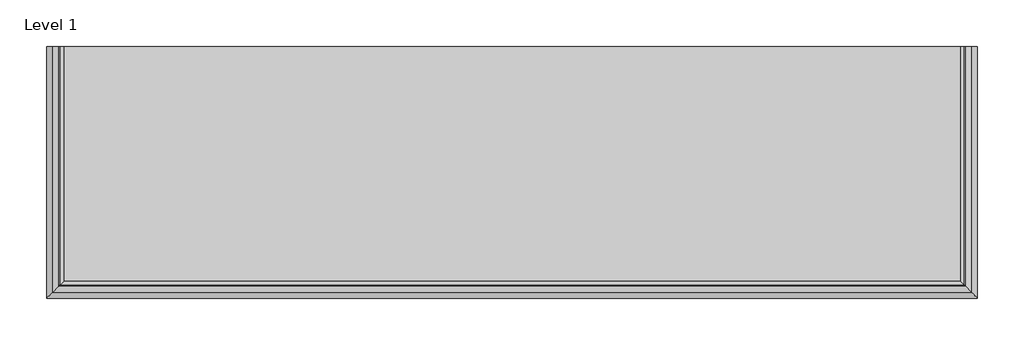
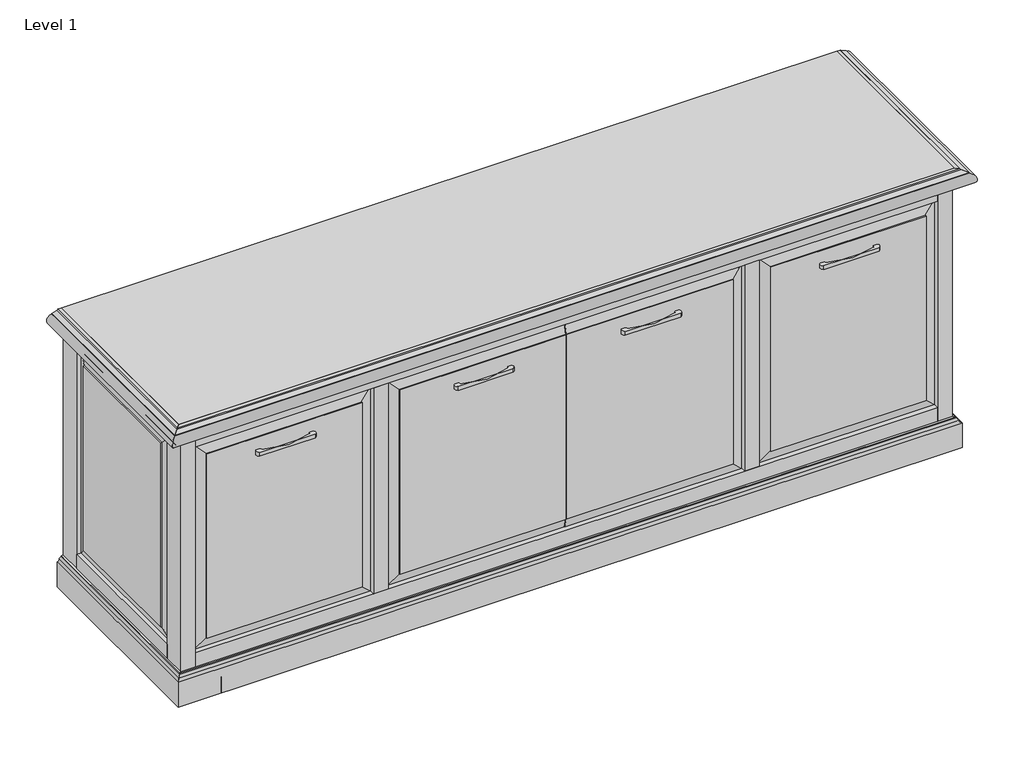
# One storey: 5 proxies.
"""IFC4 building model written with IfcOpenShell, lengths in millimetres."""

import ifcopenshell
import ifcopenshell.guid

model = None  # the IFC model being written
_history = None  # IfcOwnerHistory: only IFC2X3 demands one
_inside = {}  # id of a spatial element -> (the spatial element, [elements in it])
_under = {}  # id of a project, library or spatial element -> (it, [spatial elements below it])
_declared = {}  # id of a project -> (the project, [libraries it declares])
_typed = {}  # id of a type object -> (the type object, [elements of that type])
_made_of = {}  # id of a material, layer set ... -> (it, [elements and type objects made of it])


def new_model(schema):
    """Start an empty IFC model of exactly this schema.

    Asked for "IFC4X3", IfcOpenShell would pick the latest addendum, in which some entities
    have other attributes; the version numbers below select the first issue.
    IFC2X3 requires an IfcOwnerHistory on every rooted entity: one is made here for all.
    """
    global model, _history
    if schema == "IFC4X3":
        model = ifcopenshell.file(schema_version=(4, 3, 0, 0))
    else:
        model = ifcopenshell.file(schema=schema)
    _inside.clear()
    _under.clear()
    _declared.clear()
    _typed.clear()
    _made_of.clear()
    _history = None
    if model.schema == "IFC2X3":
        org = make("IfcOrganization", Name="unknown")
        user = make(
            "IfcPersonAndOrganization",
            ThePerson=make("IfcPerson", FamilyName="unknown"),
            TheOrganization=org,
        )
        app = make(
            "IfcApplication",
            ApplicationDeveloper=org,
            Version="unknown",
            ApplicationFullName="unknown",
            ApplicationIdentifier="unknown",
        )
        _history = make(
            "IfcOwnerHistory",
            OwningUser=user,
            OwningApplication=app,
            ChangeAction="ADDED",
            CreationDate=0,
        )
    return model


def make(cls, **values):
    """One entity of the class cls with the attributes given. An attribute that is None is left unset."""
    return model.create_entity(
        cls, **{name: value for name, value in values.items() if value is not None}
    )


def rooted(cls, **values):
    """An entity with a GlobalId (a new one), such as an element, a storey or a relation."""
    return make(cls, GlobalId=ifcopenshell.guid.new(), OwnerHistory=_history, **values)


def si_unit(unit_type, name, prefix=None):
    """IfcSIUnit, for example si_unit("LENGTHUNIT", "METRE", prefix="MILLI")."""
    return make("IfcSIUnit", UnitType=unit_type, Prefix=prefix, Name=name)


def assignment(units):
    """IfcUnitAssignment: the units of a project."""
    return None if units is None else make("IfcUnitAssignment", Units=units)


def point(xyz):
    """IfcCartesianPoint."""
    return None if xyz is None else make("IfcCartesianPoint", Coordinates=xyz)


def direction(xyz):
    """IfcDirection."""
    return None if xyz is None else make("IfcDirection", DirectionRatios=xyz)


def frame(location, z_axis=None, x_axis=None):
    """IfcAxis2Placement3D, a coordinate frame: its origin and axes. An axis left out is left unset."""
    return make(
        "IfcAxis2Placement3D",
        Location=point(location),
        Axis=direction(z_axis),
        RefDirection=direction(x_axis),
    )


def frame_2d(location, x_axis=None):
    """IfcAxis2Placement2D, a coordinate frame in the plane: its origin and x axis."""
    return make(
        "IfcAxis2Placement2D", Location=point(location), RefDirection=direction(x_axis)
    )


def origin():
    """The frame at (0, 0, 0) with its axes left unset."""
    return frame((0.0, 0.0, 0.0))


def place(relative_to, where):
    """IfcLocalPlacement: puts the frame where relative to a parent placement (None: the world)."""
    return make(
        "IfcLocalPlacement", PlacementRelTo=relative_to, RelativePlacement=where
    )


def context(
    kind, dimensions, precision=None, world=None, true_north=None, identifier=None
):
    """IfcGeometricRepresentationContext, for example the 3D "Model" context."""
    return make(
        "IfcGeometricRepresentationContext",
        ContextIdentifier=identifier,
        ContextType=kind,
        CoordinateSpaceDimension=dimensions,
        Precision=precision,
        WorldCoordinateSystem=world,
        TrueNorth=true_north,
    )


def project(units=None, contexts=None):
    """IfcProject with its units and contexts."""
    return rooted(
        "IfcProject",
        Name="project",
        RepresentationContexts=contexts,
        UnitsInContext=assignment(units),
    )


def spatial(cls, under=None, at=None, **own):
    """A site, building, storey or space (cls), placed at a placement, below another one or the project."""
    s = rooted(cls, ObjectPlacement=at, **own)
    if under is not None:
        _under.setdefault(under.id(), (under, []))[1].append(s)
    return s


def polyline(points):
    """IfcPolyline through the points."""
    return make("IfcPolyline", Points=[point(p) for p in points])


def circle_curve(where, radius):
    """IfcCircle in the frame where."""
    return make("IfcCircle", Position=where, Radius=radius)


def ellipse_curve(where, semi_axis1, semi_axis2):
    """IfcEllipse in the frame where."""
    return make(
        "IfcEllipse", Position=where, SemiAxis1=semi_axis1, SemiAxis2=semi_axis2
    )


def trimmed(basis, trim1, trim2, sense, master):
    """IfcTrimmedCurve: the piece of a basis curve between two trims."""
    return make(
        "IfcTrimmedCurve",
        BasisCurve=basis,
        Trim1=trim1,
        Trim2=trim2,
        SenseAgreement=sense,
        MasterRepresentation=master,
    )


def segment(curve, same_sense, transition):
    """IfcCompositeCurveSegment."""
    return make(
        "IfcCompositeCurveSegment",
        Transition=transition,
        SameSense=same_sense,
        ParentCurve=curve,
    )


def composite_curve(segments, self_intersect=None):
    """IfcCompositeCurve: segments joined end to end."""
    return make("IfcCompositeCurve", Segments=segments, SelfIntersect=self_intersect)


def outline(outer, holes=None, kind="AREA"):
    """IfcArbitraryClosedProfileDef: a profile drawn as a closed curve; with holes, ...WithVoids."""
    if holes is None:
        return make("IfcArbitraryClosedProfileDef", ProfileType=kind, OuterCurve=outer)
    return make(
        "IfcArbitraryProfileDefWithVoids",
        ProfileType=kind,
        OuterCurve=outer,
        InnerCurves=holes,
    )


def extrude(swept, where, along, depth):
    """IfcExtrudedAreaSolid: the profile swept, set in the frame where, extruded along a direction by depth."""
    return make(
        "IfcExtrudedAreaSolid",
        SweptArea=swept,
        Position=where,
        ExtrudedDirection=direction(along),
        Depth=depth,
    )


def faces_of(points, faces, orient=None, outer=None):
    """IfcFace entities. A face is a list of loops; a loop is a list of indices into points, from 0.

    orient and outer hold one flag for each loop. By default every Orientation is true, the
    first loop of a face is its IfcFaceOuterBound and the others are IfcFaceBound.
    """
    made = []
    for i, loops in enumerate(faces):
        bounds = []
        for j, loop in enumerate(loops):
            is_outer = j == 0 if outer is None else outer[i][j]
            bounds.append(
                make(
                    "IfcFaceOuterBound" if is_outer else "IfcFaceBound",
                    Bound=make("IfcPolyLoop", Polygon=[points[k] for k in loop]),
                    Orientation=True if orient is None else orient[i][j],
                )
            )
        made.append(make("IfcFace", Bounds=bounds))
    return made


def faceted_brep(points, faces, orient=None, outer=None, voids=None):
    """IfcFacetedBrep: a solid bounded by flat faces; with voids (closed shells), ...WithVoids."""
    shared = [point(p) for p in points]
    hull = make("IfcClosedShell", CfsFaces=faces_of(shared, faces, orient, outer))
    if voids is None:
        return make("IfcFacetedBrep", Outer=hull)
    return make(
        "IfcFacetedBrepWithVoids",
        Outer=hull,
        Voids=[
            make(cls, CfsFaces=faces_of(shared, fs, o, b)) for cls, fs, o, b in voids
        ],
    )


def shape(context_of_items, identifier, shape_type, items):
    """IfcShapeRepresentation: the items that make up one representation, for example the "Body"."""
    return make(
        "IfcShapeRepresentation",
        ContextOfItems=context_of_items,
        RepresentationIdentifier=identifier,
        RepresentationType=shape_type,
        Items=items,
    )


def source(mapping_origin, context_of_items, identifier, shape_type, items):
    """IfcRepresentationMap: a shape defined once, which mapped items show again and again."""
    return make(
        "IfcRepresentationMap",
        MappingOrigin=mapping_origin,
        MappedRepresentation=shape(context_of_items, identifier, shape_type, items),
    )


def transform(
    local_origin,
    x_axis=None,
    y_axis=None,
    z_axis=None,
    scale=None,
    scale2=None,
    scale3=None,
    uniform=True,
):
    """IfcCartesianTransformationOperator3D, or its non-uniform kind. x_axis, y_axis, z_axis: its Axis1, 2, 3."""
    if uniform:
        return make(
            "IfcCartesianTransformationOperator3D",
            Axis1=direction(x_axis),
            Axis2=direction(y_axis),
            LocalOrigin=point(local_origin),
            Scale=scale,
            Axis3=direction(z_axis),
        )
    return make(
        "IfcCartesianTransformationOperator3DnonUniform",
        Axis1=direction(x_axis),
        Axis2=direction(y_axis),
        LocalOrigin=point(local_origin),
        Scale=scale,
        Axis3=direction(z_axis),
        Scale2=scale2,
        Scale3=scale3,
    )


def mapped(mapping_source, mapping_target):
    """IfcMappedItem: shows the shape of a source again, moved by a transform."""
    return make(
        "IfcMappedItem", MappingSource=mapping_source, MappingTarget=mapping_target
    )


def made_of(thing, what):
    """Note that an element or type object is made of a material, layer set ...; save() writes the relation."""
    if what is not None:
        _made_of.setdefault(what.id(), (what, []))[1].append(thing)
    return thing


def element(
    cls,
    number,
    at=None,
    inside=None,
    cuts=None,
    type_object=None,
    material=None,
    context=None,
    identifier="Body",
    shape_type=None,
    held_by="IfcProductDefinitionShape",
    body=None,
    shapes=None,
    **own,
):
    """One element of the class cls, such as IfcWall. Its Tag is "e" and its number.

    at: its placement. inside: the storey or other place that contains it. cuts: it is an
    opening in that element (IfcRelVoidsElement). A single representation is given by context,
    identifier, shape_type and body (its items); several are given by shapes. held_by: the class
    of the entity that holds the representations. save() writes the other relations.
    """
    e = rooted(cls, Tag="e%d" % number, ObjectPlacement=at, **own)
    if body is not None:
        shapes = [shape(context, identifier, shape_type, body)]
    if shapes is not None:
        e.Representation = make(held_by, Representations=shapes)
    if inside is not None:
        _inside.setdefault(inside.id(), (inside, []))[1].append(e)
    if cuts is not None:
        rooted(
            "IfcRelVoidsElement", RelatingBuildingElement=cuts, RelatedOpeningElement=e
        )
    if type_object is not None:
        _typed.setdefault(type_object.id(), (type_object, []))[1].append(e)
    return made_of(e, material)


def aggregate(whole, parts):
    """IfcRelAggregates: a whole, such as a stair, and the parts it consists of."""
    return rooted("IfcRelAggregates", RelatingObject=whole, RelatedObjects=parts)


def save(model, path):
    """Write the relations noted so far, then the file.

    IfcRelAggregates (storeys below a building ...), IfcRelContainedInSpatialStructure (elements
    in a storey), IfcRelDefinesByType, IfcRelAssociatesMaterial and IfcRelDeclares: one each for
    every whole, place, type object, material and project.
    """
    for whole, parts in _under.values():
        aggregate(whole, parts)
    for where, things in _inside.values():
        rooted(
            "IfcRelContainedInSpatialStructure",
            RelatedElements=things,
            RelatingStructure=where,
        )
    for kind, things in _typed.values():
        rooted("IfcRelDefinesByType", RelatedObjects=things, RelatingType=kind)
    for what, things in _made_of.values():
        rooted("IfcRelAssociatesMaterial", RelatedObjects=things, RelatingMaterial=what)
    for by, libraries in _declared.values():
        rooted("IfcRelDeclares", RelatingContext=by, RelatedDefinitions=libraries)
    model.write(path)


def plane_surface(at):
    """IfcPlane: the flat surface through the origin of the frame at, square to its z axis."""
    return make("IfcPlane", Position=at)


def cylinder_surface(at, radius):
    """IfcCylindricalSurface: all points at the distance radius from the z axis of the frame at."""
    return make("IfcCylindricalSurface", Position=at, Radius=radius)


def revolved_surface(curve, axis_point, axis_direction):
    """IfcSurfaceOfRevolution: the curve turned about the line through axis_point along axis_direction."""
    return make(
        "IfcSurfaceOfRevolution",
        SweptCurve=make("IfcArbitraryOpenProfileDef", ProfileType="CURVE", Curve=curve),
        AxisPosition=make("IfcAxis1Placement", Location=point(axis_point), Axis=direction(axis_direction)),
    )


def advanced_brep(points, edges, surfaces, faces):
    """IfcAdvancedBrep: a solid bounded by faces that lie on surfaces and meet in shared edges.

    An edge is (start, end): straight between two places in points (the first is 0);
    or (start, end, curve); or (start, end, curve, False) where it runs against its curve.
    A face is (place in surfaces, loops), or (place, loops, False) where it looks against
    its surface's normal. A loop lists edges by number (the first is 1), with a minus sign
    where the edge is run from its end to its start. The first loop is the outer one.
    """
    corners = [point(p) for p in points]
    vertices = [make("IfcVertexPoint", VertexGeometry=c) for c in corners]
    made = []
    for start, end, *more in edges:
        made.append(
            make(
                "IfcEdgeCurve",
                EdgeStart=vertices[start],
                EdgeEnd=vertices[end],
                EdgeGeometry=more[0] if more else make("IfcPolyline", Points=[corners[start], corners[end]]),
                SameSense=more[1] if len(more) > 1 else True,
            )
        )
    hull = []
    for where, loops, *sense in faces:
        bounds = []
        for j, loop in enumerate(loops):
            ring = [make("IfcOrientedEdge", EdgeElement=made[abs(k) - 1], Orientation=k > 0) for k in loop]
            bounds.append(
                make(
                    "IfcFaceOuterBound" if j == 0 else "IfcFaceBound",
                    Bound=make("IfcEdgeLoop", EdgeList=ring),
                    Orientation=True,
                )
            )
        hull.append(make("IfcAdvancedFace", Bounds=bounds, FaceSurface=surfaces[where], SameSense=sense[0] if sense else True))
    return make("IfcAdvancedBrep", Outer=make("IfcClosedShell", CfsFaces=hull))


def generic_models_5fe2147b(model_context):
    return source(origin(), model_context, "Body", "SweptSolid", [
        extrude(outline(composite_curve([segment(polyline([(0.0, 176.6568542), (0.0, 165.3431458)]), True, "CONTINUOUS"), segment(trimmed(circle_curve(frame_2d((-7.0, 171.0)), 9.0), [point((0.0, 165.3431458))], [point((-7.0, 162.0))], False, "CARTESIAN"), True, "CONTINUOUS"), segment(trimmed(circle_curve(frame_2d((155.5694928, 90.0)), 177.8), [point((-7.0, 162.0))], [point((-7.0, 18.0))], True, "CARTESIAN"), True, "CONTINUOUS"), segment(trimmed(circle_curve(frame_2d((-7.0, 9.0)), 9.0), [point((-7.0, 18.0))], [point((0.0, 14.6568542))], False, "CARTESIAN"), True, "CONTINUOUS"), segment(polyline([(0.0, 14.6568542), (0.0, 3.3431458)]), True, "CONTINUOUS"), segment(trimmed(circle_curve(frame_2d((-7.0, 9.0)), 9.0), [point((0.0, 3.3431458))], [point((-15.6134228, 6.390604))], False, "CARTESIAN"), True, "CONTINUOUS"), segment(trimmed(circle_curve(frame_2d((260.375, 90.0)), 288.375), [point((-15.6134228, 6.390604))], [point((-15.6134228, 173.609396))], False, "CARTESIAN"), True, "CONTINUOUS"), segment(trimmed(circle_curve(frame_2d((-7.0, 171.0)), 9.0), [point((-15.6134228, 173.609396))], [point((0.0, 176.6568542))], False, "CARTESIAN"), True, "CONTINUOUS")], self_intersect=False)), frame((0.0, 0.0, 0.0), z_axis=(0.0, 1.0, 0.0), x_axis=(0.0, 0.0, 1.0)), (0.0, 0.0, 1.0), 12.0),
    ])


def generic_models_f6060e17(model_context):
    return source(origin(), model_context, "Body", "SolidModel", [
        extrude(outline(polyline([(31.75, -857.25), (6.35, -857.25), (6.35, -717.55), (31.75, -717.55), (31.75, -857.25)])), frame((0.0, 0.0, -546.1), z_axis=(0.0, 0.0, 1.0), x_axis=(1.0, 0.0, 0.0)), (0.0, 0.0, 1.0), 476.25),
        extrude(outline(polyline([(0.0, 2298.7), (-25.4, 2298.7), (-25.4, 2317.75), (0.0, 2343.15), (0.0, 2298.7)])), frame((0.0, -857.25, 0.0), z_axis=(0.0, 1.0, 0.0), x_axis=(0.0, 0.0, 1.0)), (0.0, 0.0, 1.0), 857.25),
        extrude(outline(polyline([(-25.4, 31.75), (-25.4, 50.8), (0.0, 50.8), (0.0, 6.35), (-25.4, 31.75)])), frame((0.0, -857.25, 0.0), z_axis=(0.0, 1.0, 0.0), x_axis=(0.0, 0.0, 1.0)), (0.0, 0.0, 1.0), 857.25),
        faceted_brep([(1679.575, -92.075, -3.175), (1711.325, -60.325, -11.6823869), (1176.3375, -60.325, -11.6823869), (1176.3375, -92.075, -3.175), (1679.575, -92.075, 0.0), (1176.3375, -92.075, 0.0), (1679.575, -682.625, -3.175), (1711.325, -714.375, -11.6823869), (1679.575, -682.625, 0.0), (1176.3375, -682.625, -3.175), (1176.3375, -714.375, -11.6823869), (1176.3375, -682.625, 0.0), (1711.325, -60.325, -19.05), (1176.3375, -60.325, -19.05), (1711.325, -714.375, -19.05), (1176.3375, -714.375, -19.05)], [[[0, 1, 2, 3]], [[4, 0, 3, 5]], [[6, 7, 1, 0]], [[8, 6, 0, 4]], [[9, 10, 7, 6]], [[11, 9, 6, 8]], [[2, 1, 12, 13]], [[1, 7, 14, 12]], [[5, 3, 2, 13, 15, 10, 9, 11]], [[7, 10, 15, 14]], [[4, 5, 11, 8]], [[12, 14, 15, 13]]]),
        extrude(outline(polyline([(2343.15, -857.25), (2317.75, -857.25), (2317.75, -717.55), (2343.15, -717.55), (2343.15, -857.25)])), frame((0.0, 0.0, -546.1), z_axis=(0.0, 0.0, 1.0), x_axis=(1.0, 0.0, 0.0)), (0.0, 0.0, 1.0), 476.25),
        extrude(outline(polyline([(0.0, 6.35), (-69.85, 6.35), (-69.85, 31.75), (-25.4, 31.75), (0.0, 6.35)])), frame((0.0, -857.25, 0.0), z_axis=(0.0, 1.0, 0.0), x_axis=(0.0, 0.0, 1.0)), (0.0, 0.0, 1.0), 857.25),
        faceted_brep([(2263.775, -682.625, -3.175), (2295.525, -714.375, -11.6823869), (2295.525, -60.325, -11.6823869), (2263.775, -92.075, -3.175), (2263.775, -682.625, 0.0), (2263.775, -92.075, 0.0), (1793.875, -682.625, -3.175), (1762.125, -714.375, -11.6823869), (1793.875, -682.625, 0.0), (1793.875, -92.075, -3.175), (1762.125, -60.325, -11.6823869), (1793.875, -92.075, 0.0), (2295.525, -60.325, -19.05), (1762.125, -60.325, -19.05), (2295.525, -714.375, -19.05), (1762.125, -714.375, -19.05)], [[[0, 1, 2, 3]], [[4, 0, 3, 5]], [[6, 7, 1, 0]], [[8, 6, 0, 4]], [[9, 10, 7, 6]], [[11, 9, 6, 8]], [[3, 2, 10, 9]], [[5, 3, 9, 11]], [[10, 2, 12, 13]], [[2, 1, 14, 12]], [[7, 10, 13, 15]], [[1, 7, 15, 14]], [[4, 5, 11, 8]], [[14, 15, 13, 12]]]),
        extrude(outline(polyline([(2343.15, -857.25), (2317.75, -857.25), (2317.75, 0.0), (2343.15, 0.0), (2343.15, -857.25)])), frame((0.0, 0.0, -615.95), z_axis=(0.0, 0.0, 1.0), x_axis=(1.0, 0.0, 0.0)), (0.0, 0.0, 1.0), 69.85),
        faceted_brep([(555.625, -682.625, 0.0), (555.625, -682.625, -3.175), (555.625, -92.075, -3.175), (555.625, -92.075, 0.0), (587.375, -714.375, -11.6823869), (587.375, -60.325, -11.6823869), (85.725, -682.625, 0.0), (85.725, -682.625, -3.175), (53.975, -714.375, -11.6823869), (85.725, -92.075, 0.0), (85.725, -92.075, -3.175), (53.975, -60.325, -11.6823869), (587.375, -60.325, -19.05), (53.975, -60.325, -19.05), (587.375, -714.375, -19.05), (53.975, -714.375, -19.05)], [[[0, 1, 2, 3]], [[1, 4, 5, 2]], [[6, 7, 1, 0]], [[7, 8, 4, 1]], [[9, 10, 7, 6]], [[10, 11, 8, 7]], [[2, 5, 11, 10]], [[3, 2, 10, 9]], [[11, 5, 12, 13]], [[5, 4, 14, 12]], [[8, 11, 13, 15]], [[4, 8, 15, 14]], [[0, 3, 9, 6]], [[14, 15, 13, 12]]]),
        extrude(outline(polyline([(0.0, 2343.15), (-25.4, 2317.75), (-69.85, 2317.75), (-69.85, 2343.15), (0.0, 2343.15)])), frame((0.0, -857.25, 0.0), z_axis=(0.0, 1.0, 0.0), x_axis=(0.0, 0.0, 1.0)), (0.0, 0.0, 1.0), 857.25),
        extrude(outline(polyline([(2298.7, -857.25), (50.8, -857.25), (50.8, -717.55), (2298.7, -717.55), (2298.7, -857.25)])), frame((0.0, 0.0, -25.4), z_axis=(0.0, 0.0, 1.0), x_axis=(1.0, 0.0, 0.0)), (0.0, 0.0, 1.0), 25.4),
        extrude(outline(polyline([(1714.5, -57.15), (1758.95, -57.15), (1758.95, -717.55), (1714.5, -717.55), (1714.5, -57.15)])), frame((0.0, 0.0, -25.4), z_axis=(0.0, 0.0, 1.0), x_axis=(1.0, 0.0, 0.0)), (0.0, 0.0, 1.0), 25.4),
        extrude(outline(polyline([(31.75, 0.0), (50.8, 0.0), (50.8, -857.25), (31.75, -857.25), (31.75, 0.0)])), frame((0.0, 0.0, -596.9), z_axis=(0.0, 0.0, 1.0), x_axis=(1.0, 0.0, 0.0)), (0.0, 0.0, 1.0), 571.5),
        advanced_brep(
        [(2362.2, -857.25, 19.05), (-12.7, -857.25, 19.05), (6.35, -857.25, 0.0), (2343.15, -857.25, 0.0), (2362.2, -777.875, 19.05), (-12.7, -777.875, 19.05), (6.35, -762.0, 0.0), (2343.15, -762.0, 0.0), (2355.85, -771.525, 12.7), (-6.35, -771.525, 12.7), (2349.5, -765.175, 6.35), (0.0, -765.175, 6.35), (2349.5, -762.0, 6.35), (0.0, -762.0, 6.35)],
        [
            (0, 1),
            (1, 2),
            (2, 3),
            (3, 0),
            (0, 4),
            (4, 5),
            (5, 1),
            (2, 6),
            (6, 7),
            (7, 3),
            (4, 8, ellipse_curve(frame((2362.2, -771.525, 19.05), z_axis=(0.7071067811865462, 0.0, -0.7071067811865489), x_axis=(-0.7071067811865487, 0.0, -0.7071067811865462)), 8.9802561, 6.35)),
            (8, 9),
            (9, 5, ellipse_curve(frame((-12.7, -771.525, 19.05), z_axis=(-0.7071067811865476, 0.0, -0.7071067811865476), x_axis=(-0.7071067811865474, 0.0, 0.7071067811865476)), 8.9802561, 6.35)),
            (8, 10, ellipse_curve(frame((2349.5, -771.525, 6.35), z_axis=(-0.7071067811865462, 0.0, 0.7071067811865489), x_axis=(-0.7071067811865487, 0.0, -0.7071067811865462)), 8.9802561, 6.35)),
            (10, 11),
            (11, 9, ellipse_curve(frame((0.0, -771.525, 6.35), z_axis=(0.7071067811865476, 0.0, 0.7071067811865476), x_axis=(-0.7071067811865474, 0.0, 0.7071067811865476)), 8.9802561, 6.35)),
            (10, 12),
            (12, 13),
            (13, 11),
            (12, 7),
            (6, 13),
        ],
        [
            plane_surface(frame((1174.75, -857.25, 9.525), z_axis=(0.0, -1.0, 0.0), x_axis=(0.0, 0.0, -1.0))),
            plane_surface(frame((-12.7, -857.25, 19.05), z_axis=(0.0, 0.0, 1.0), x_axis=(1.0, 0.0, 0.0))),
            plane_surface(frame((2343.15, -857.25, 0.0), z_axis=(0.0, 0.0, -1.0), x_axis=(-1.0, 0.0, 0.0))),
            revolved_surface(polyline([(-19.04999998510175, -771.525, 25.4), (2368.5499999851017, -771.525, 25.4)]), (2362.2, -771.525, 19.05), (-1.0, 0.0, 0.0)),
            cylinder_surface(frame((2349.5, -771.525, 6.35), z_axis=(-1.0, 0.0, 0.0), x_axis=(0.0, 0.0, 1.0)), 6.35),
            plane_surface(frame((2349.5, -762.0, 6.35), z_axis=(0.0, 0.0, 1.0), x_axis=(0.0, -1.0, 0.0))),
            plane_surface(frame((1174.75, -762.0, 9.525), z_axis=(0.0, 1.0, 0.0), x_axis=(0.0, 0.0, 1.0))),
            plane_surface(frame((2362.2, -857.25, 19.05), z_axis=(0.7071067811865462, 0.0, -0.7071067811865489), x_axis=(-0.7071067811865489, 0.0, -0.7071067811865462))),
            plane_surface(frame((6.35, -857.25, 0.0), z_axis=(-0.7071067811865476, 0.0, -0.7071067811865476), x_axis=(-0.7071067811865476, 0.0, 0.7071067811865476))),
        ],
        [
            (0, [[1, 2, 3, 4]]),
            (1, [[-1, 5, 6, 7]]),
            (2, [[-3, 8, 9, 10]]),
            (3, [[11, 12, 13, -6]]),
            (4, [[14, 15, 16, -12]]),
            (5, [[17, 18, 19, -15]]),
            (6, [[-18, 20, -9, 21]]),
            (7, [[-17, -14, -11, -5, -4, -10, -20]]),
            (8, [[-19, -21, -8, -2, -7, -13, -16]]),
        ],
    ),
        advanced_brep(
        [(2362.2, -777.875, -615.95), (2355.85, -771.525, -615.95), (2355.85, -771.525, 12.7), (2362.2, -777.875, 19.05), (2349.5, -765.175, -615.95), (2349.5, -765.175, 6.35), (2349.5, -762.0, -615.95), (2349.5, -762.0, 6.35), (2343.15, -762.0, 0.0), (2343.15, -857.25, 0.0), (2362.2, -857.25, 19.05), (2343.15, -762.0, -615.95), (2343.15, -857.25, -615.95), (2362.2, -857.25, -615.95)],
        [
            (0, 1, circle_curve(frame((2362.2, -771.525, -615.95), z_axis=(0.0, 0.0, -1.0), x_axis=(0.0, -1.0, 0.0)), 6.35)),
            (1, 2),
            (2, 3, ellipse_curve(frame((2362.2, -771.525, 19.05), z_axis=(-0.7071067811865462, 0.0, 0.7071067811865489), x_axis=(0.707106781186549, 0.0, 0.707106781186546)), 8.9802561, 6.35)),
            (3, 0),
            (1, 4, circle_curve(frame((2349.5, -771.525, -615.95), z_axis=(0.0, 0.0, 1.0), x_axis=(0.0, -1.0, 0.0)), 6.35)),
            (4, 5),
            (5, 2, ellipse_curve(frame((2349.5, -771.525, 6.35), z_axis=(0.7071067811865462, 0.0, -0.7071067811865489), x_axis=(0.707106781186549, 0.0, 0.707106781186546)), 8.9802561, 6.35)),
            (4, 6),
            (6, 7),
            (7, 5),
            (7, 8),
            (8, 9),
            (9, 10),
            (10, 3),
            (6, 11),
            (11, 8),
            (12, 9),
            (11, 12),
            (0, 13),
            (13, 12),
            (10, 13),
        ],
        [
            revolved_surface(polyline([(2362.2, -777.875, 25.399999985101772), (2362.2, -777.875, -615.95)]), (2362.2, -771.525, -615.95), (0.0, 0.0, 1.0)),
            cylinder_surface(frame((2349.5, -771.525, -615.95), z_axis=(0.0, 0.0, 1.0), x_axis=(0.0, -1.0, 0.0)), 6.35),
            plane_surface(frame((2349.5, -762.0, -615.95), z_axis=(1.0, 0.0, 0.0), x_axis=(0.0, -1.0, 0.0))),
            plane_surface(frame((2343.15, -857.25, 0.0), z_axis=(-0.7071067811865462, 0.0, 0.7071067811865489), x_axis=(0.7071067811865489, 0.0, 0.7071067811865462))),
            plane_surface(frame((2352.675, -762.0, -298.45), z_axis=(0.0, 1.0, 0.0), x_axis=(0.0, 0.0, 1.0))),
            plane_surface(frame((2343.15, -857.25, -615.95), z_axis=(-1.0, 0.0, 0.0), x_axis=(0.0, 0.0, 1.0))),
            plane_surface(frame((2362.2, -857.25, -615.95), z_axis=(0.0, 0.0, -1.0), x_axis=(-1.0, 0.0, 0.0))),
            plane_surface(frame((2362.2, -857.25, 19.05), z_axis=(1.0, 0.0, 0.0), x_axis=(0.0, 0.0, -1.0))),
            plane_surface(frame((2352.675, -857.25, -298.45), z_axis=(0.0, -1.0, 0.0), x_axis=(0.0, 0.0, -1.0))),
        ],
        [
            (0, [[1, 2, 3, 4]]),
            (1, [[5, 6, 7, -2]]),
            (2, [[8, 9, 10, -6]]),
            (3, [[-3, -7, -10, 11, 12, 13, 14]]),
            (4, [[-9, 15, 16, -11]]),
            (5, [[17, -12, -16, 18]]),
            (6, [[-1, 19, 20, -18, -15, -8, -5]]),
            (7, [[-4, -14, 21, -19]]),
            (8, [[-21, -13, -17, -20]]),
        ],
    ),
        extrude(outline(polyline([(6.35, 0.0), (31.75, 0.0), (31.75, -57.15), (6.35, -57.15), (6.35, 0.0)])), frame((0.0, 0.0, -546.1), z_axis=(0.0, 0.0, 1.0), x_axis=(1.0, 0.0, 0.0)), (0.0, 0.0, 1.0), 476.25),
        extrude(outline(polyline([(50.8, -717.55), (2298.7, -717.55), (2298.7, -755.65), (50.8, -755.65), (50.8, -717.55)])), frame((0.0, 0.0, -596.9), z_axis=(0.0, 0.0, 1.0), x_axis=(1.0, 0.0, 0.0)), (0.0, 0.0, 1.0), 571.5),
        faceted_brep([(2343.15, -682.625, -511.175), (2339.975, -682.625, -511.175), (2339.975, -92.075, -511.175), (2343.15, -92.075, -511.175), (2331.4676131, -714.375, -542.925), (2331.4676131, -60.325, -542.925), (2324.1, -714.375, -542.925), (2324.1, -60.325, -542.925), (2343.15, -682.625, -104.775), (2339.975, -682.625, -104.775), (2331.4676131, -714.375, -73.025), (2324.1, -714.375, -73.025), (2324.1, -57.15, -546.1), (2324.1, -57.15, -69.85), (2324.1, -717.55, -69.85), (2324.1, -717.55, -546.1), (2324.1, -60.325, -73.025), (2343.15, -92.075, -104.775), (2339.975, -92.075, -104.775), (2331.4676131, -60.325, -73.025), (2317.75, -717.55, -546.1), (2317.75, -57.15, -546.1), (2317.75, -717.55, -69.85), (2317.75, -57.15, -69.85)], [[[0, 1, 2, 3]], [[1, 4, 5, 2]], [[4, 6, 7, 5]], [[8, 9, 1, 0]], [[9, 10, 4, 1]], [[10, 11, 6, 4]], [[12, 13, 14, 15], [11, 16, 7, 6]], [[17, 18, 9, 8]], [[18, 19, 10, 9]], [[19, 16, 11, 10]], [[3, 2, 18, 17]], [[2, 5, 19, 18]], [[5, 7, 16, 19]], [[12, 15, 20, 21]], [[15, 14, 22, 20]], [[14, 13, 23, 22]], [[13, 12, 21, 23]], [[0, 3, 17, 8]], [[20, 22, 23, 21]]]),
        faceted_brep([(6.35, -682.625, -104.775), (9.525, -682.625, -104.775), (9.525, -92.075, -104.775), (6.35, -92.075, -104.775), (18.0323869, -714.375, -73.025), (18.0323869, -60.325, -73.025), (25.4, -714.375, -73.025), (25.4, -60.325, -73.025), (6.35, -682.625, -511.175), (9.525, -682.625, -511.175), (18.0323869, -714.375, -542.925), (25.4, -714.375, -542.925), (25.4, -57.15, -69.85), (25.4, -57.15, -546.1), (25.4, -717.55, -546.1), (25.4, -717.55, -69.85), (25.4, -60.325, -542.925), (6.35, -92.075, -511.175), (9.525, -92.075, -511.175), (18.0323869, -60.325, -542.925), (31.75, -717.55, -69.85), (31.75, -57.15, -69.85), (31.75, -717.55, -546.1), (31.75, -57.15, -546.1)], [[[0, 1, 2, 3]], [[1, 4, 5, 2]], [[4, 6, 7, 5]], [[8, 9, 1, 0]], [[9, 10, 4, 1]], [[10, 11, 6, 4]], [[12, 13, 14, 15], [11, 16, 7, 6]], [[17, 18, 9, 8]], [[18, 19, 10, 9]], [[19, 16, 11, 10]], [[3, 2, 18, 17]], [[2, 5, 19, 18]], [[5, 7, 16, 19]], [[12, 15, 20, 21]], [[15, 14, 22, 20]], [[14, 13, 23, 22]], [[13, 12, 21, 23]], [[0, 3, 17, 8]], [[20, 22, 23, 21]]]),
        advanced_brep(
        [(-27.4410714, -9.5412197, 27.4410714), (-28.575, 22.1682311, 28.575), (-28.575, 22.1682311, -615.95), (-27.4410714, -9.5412197, -615.95), (-28.575, 23.7557311, 28.575), (-28.575, 23.7557311, -615.95), (-13.7031721, 29.1686338, 13.7031721), (-13.7031721, 29.1686338, -615.95), (-10.5028814, 31.75, 10.5028814), (-10.5028814, 31.75, -615.95), (-21.4882387, -12.7, 21.4882387), (-21.4882387, -12.7, -615.95), (0.0, -12.7, -615.95), (0.0, -12.7, 0.0), (0.0, 31.75, -615.95), (0.0, 31.75, 0.0)],
        [
            (0, 1, ellipse_curve(frame((-28.575, 6.2932311, 28.575), z_axis=(-0.7071067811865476, 0.0, -0.7071067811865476), x_axis=(0.7071067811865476, 0.0, -0.7071067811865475)), 22.4506403, 15.875)),
            (1, 2),
            (2, 3, circle_curve(frame((-28.575, 6.2932311, -615.95), z_axis=(0.0, 0.0, 1.0), x_axis=(-1.0, 0.0, 0.0)), 15.875)),
            (3, 0),
            (1, 4),
            (4, 5),
            (5, 2),
            (4, 6),
            (6, 7),
            (7, 5),
            (6, 8, ellipse_curve(frame((-15.875, 35.1356819, 15.875), z_axis=(0.7071067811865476, 0.0, 0.7071067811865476), x_axis=(0.7071067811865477, 0.0, -0.7071067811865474)), 8.9802561, 6.35)),
            (8, 9),
            (9, 7, circle_curve(frame((-15.875, 35.1356819, -615.95), z_axis=(0.0, 0.0, -1.0), x_axis=(1.0, 0.0, 0.0)), 6.35)),
            (10, 0, ellipse_curve(frame((-26.9875, -15.875, 26.9875), z_axis=(0.7071067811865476, 0.0, 0.7071067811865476), x_axis=(0.7071067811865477, 0.0, -0.7071067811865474)), 8.9802561, 6.35)),
            (3, 11, circle_curve(frame((-26.9875, -15.875, -615.95), z_axis=(0.0, 0.0, -1.0), x_axis=(1.0, 0.0, 0.0)), 6.35)),
            (11, 10),
            (11, 12),
            (12, 13),
            (13, 10),
            (9, 14),
            (14, 12),
            (13, 15),
            (15, 8),
            (14, 15),
        ],
        [
            cylinder_surface(frame((-28.575, 6.2932311, 28.575), z_axis=(0.0, 0.0, -1.0), x_axis=(-1.0, 0.0, 0.0)), 15.875),
            plane_surface(frame((-28.575, 23.7557311, 28.575), z_axis=(-1.0, 0.0, 0.0), x_axis=(0.0, -1.0, 0.0))),
            plane_surface(frame((-13.7031721, 29.1686338, 13.7031721), z_axis=(-0.3420201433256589, 0.939692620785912, 0.0), x_axis=(-0.6847910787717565, -0.24924356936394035, 0.6847910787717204))),
            revolved_surface(polyline([(-9.525, 35.1356819, -615.95), (-9.525, 35.1356819, 22.224999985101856)]), (-15.875, 35.1356819, 15.875), (0.0, 0.0, -1.0)),
            revolved_surface(polyline([(-20.637500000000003, -15.875, -615.95), (-20.637500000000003, -15.875, 33.33749998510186)]), (-26.9875, -15.875, 26.9875), (0.0, 0.0, -1.0)),
            plane_surface(frame((-22.225, -12.7, -285.75), z_axis=(0.0, -1.0, 0.0), x_axis=(0.0, 0.0, -1.0))),
            plane_surface(frame((-44.45, 31.75, -615.95), z_axis=(0.0, 0.0, -1.0), x_axis=(1.0, 0.0, 0.0))),
            plane_surface(frame((0.0, 31.75, 0.0), z_axis=(0.7071067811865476, 0.0, 0.7071067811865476), x_axis=(-0.7071067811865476, 0.0, 0.7071067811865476))),
            plane_surface(frame((0.0, 31.75, -615.95), z_axis=(1.0, 0.0, 0.0), x_axis=(0.0, 0.0, 1.0))),
            plane_surface(frame((-22.225, 31.75, -285.75), z_axis=(0.0, 1.0, 0.0), x_axis=(0.0, 0.0, 1.0))),
        ],
        [
            (0, [[1, 2, 3, 4]]),
            (1, [[5, 6, 7, -2]]),
            (2, [[8, 9, 10, -6]]),
            (3, [[11, 12, 13, -9]]),
            (4, [[14, -4, 15, 16]]),
            (5, [[-16, 17, 18, 19]]),
            (6, [[-15, -3, -7, -10, -13, 20, 21, -17]]),
            (7, [[-14, -19, 22, 23, -11, -8, -5, -1]]),
            (8, [[24, -22, -18, -21]]),
            (9, [[-12, -23, -24, -20]]),
        ],
    ),
        extrude(outline(polyline([(2317.75, 0.0), (2343.15, 0.0), (2343.15, -57.15), (2317.75, -57.15), (2317.75, 0.0)])), frame((0.0, 0.0, -546.1), z_axis=(0.0, 0.0, 1.0), x_axis=(1.0, 0.0, 0.0)), (0.0, 0.0, 1.0), 476.25),
        extrude(outline(polyline([(523.875, -857.25), (117.475, -857.25), (117.475, -806.45), (523.875, -806.45), (523.875, -857.25)])), frame((0.0, 0.0, 15.875), z_axis=(0.0, 0.0, 1.0), x_axis=(1.0, 0.0, 0.0)), (0.0, 0.0, 1.0), 3.175),
        extrude(outline(polyline([(50.8, 0.0), (2298.7, 0.0), (2298.7, -57.15), (50.8, -57.15), (50.8, 0.0)])), frame((0.0, 0.0, -25.4), z_axis=(0.0, 0.0, 1.0), x_axis=(1.0, 0.0, 0.0)), (0.0, 0.0, 1.0), 25.4),
        extrude(outline(polyline([(590.55, -57.15), (635.0, -57.15), (635.0, -717.55), (590.55, -717.55), (590.55, -57.15)])), frame((0.0, 0.0, -25.4), z_axis=(0.0, 0.0, 1.0), x_axis=(1.0, 0.0, 0.0)), (0.0, 0.0, 1.0), 25.4),
        advanced_brep(
        [(2376.9410714, -9.5412197, 27.4410714), (2378.075, 22.1682311, 28.575), (-28.575, 22.1682311, 28.575), (-27.4410714, -9.5412197, 27.4410714), (2378.075, 23.7557311, 28.575), (-28.575, 23.7557311, 28.575), (2363.2031721, 29.1686338, 13.7031721), (-13.7031721, 29.1686338, 13.7031721), (2360.0028814, 31.75, 10.5028814), (-10.5028814, 31.75, 10.5028814), (2370.9882387, -12.7, 21.4882387), (-21.4882387, -12.7, 21.4882387), (2349.5, -12.7, 0.0), (2349.5, 31.75, 0.0), (0.0, -12.7, 0.0), (0.0, 31.75, 0.0)],
        [
            (0, 1, ellipse_curve(frame((2378.075, 6.2932311, 28.575), z_axis=(-0.7071067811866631, 0.0, 0.707106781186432), x_axis=(-0.7071067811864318, 0.0, -0.7071067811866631)), 22.4506403, 15.875)),
            (1, 2),
            (2, 3, ellipse_curve(frame((-28.575, 6.2932311, 28.575), z_axis=(0.7071067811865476, 0.0, 0.7071067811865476), x_axis=(-0.7071067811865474, 0.0, 0.7071067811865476)), 22.4506403, 15.875)),
            (3, 0),
            (1, 4),
            (4, 5),
            (5, 2),
            (4, 6),
            (6, 7),
            (7, 5),
            (6, 8, ellipse_curve(frame((2365.375, 35.1356819, 15.875), z_axis=(0.7071067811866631, 0.0, -0.707106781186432), x_axis=(-0.7071067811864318, 0.0, -0.7071067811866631)), 8.9802561, 6.35)),
            (8, 9),
            (9, 7, ellipse_curve(frame((-15.875, 35.1356819, 15.875), z_axis=(-0.7071067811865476, 0.0, -0.7071067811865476), x_axis=(-0.7071067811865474, 0.0, 0.7071067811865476)), 8.9802561, 6.35)),
            (10, 0, ellipse_curve(frame((2376.4875, -15.875, 26.9875), z_axis=(0.7071067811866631, 0.0, -0.707106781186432), x_axis=(-0.7071067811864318, 0.0, -0.7071067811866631)), 8.9802561, 6.35)),
            (3, 11, ellipse_curve(frame((-26.9875, -15.875, 26.9875), z_axis=(-0.7071067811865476, 0.0, -0.7071067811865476), x_axis=(-0.7071067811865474, 0.0, 0.7071067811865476)), 8.9802561, 6.35)),
            (11, 10),
            (10, 12),
            (12, 13),
            (13, 8),
            (11, 14),
            (14, 12),
            (15, 13),
            (14, 15),
            (9, 15),
        ],
        [
            cylinder_surface(frame((2378.075, 6.2932311, 28.575), z_axis=(-1.0, 0.0, 0.0), x_axis=(0.0, 0.0, 1.0)), 15.875),
            plane_surface(frame((2378.075, 23.7557311, 28.575), z_axis=(0.0, 0.0, 1.0), x_axis=(0.0, -1.0, 0.0))),
            plane_surface(frame((2363.2031721, 29.1686338, 13.7031721), z_axis=(0.0, 0.939692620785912, 0.3420201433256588), x_axis=(0.6847910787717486, -0.24924356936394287, 0.6847910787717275))),
            revolved_surface(polyline([(-22.22499998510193, 35.1356819, 9.525), (2371.724999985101, 35.1356819, 9.525)]), (2365.375, 35.1356819, 15.875), (-1.0, 0.0, 0.0)),
            revolved_surface(polyline([(-33.33749998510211, -15.875, 20.637500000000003), (2382.837499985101, -15.875, 20.637500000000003)]), (2376.4875, -15.875, 26.9875), (-1.0, 0.0, 0.0)),
            plane_surface(frame((2349.5, 31.75, 0.0), z_axis=(0.7071067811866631, 0.0, -0.707106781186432), x_axis=(0.707106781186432, 0.0, 0.7071067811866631))),
            plane_surface(frame((1174.75, -12.7, 22.225), z_axis=(0.0, -1.0, 0.0), x_axis=(0.0, 0.0, -1.0))),
            plane_surface(frame((0.0, 31.75, 0.0), z_axis=(0.0, 0.0, -1.0), x_axis=(1.0, 0.0, 0.0))),
            plane_surface(frame((-44.45, 31.75, 44.45), z_axis=(-0.7071067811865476, 0.0, -0.7071067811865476), x_axis=(0.7071067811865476, 0.0, -0.7071067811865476))),
            plane_surface(frame((1174.75, 31.75, 22.225), z_axis=(0.0, 1.0, 0.0), x_axis=(0.0, 0.0, 1.0))),
        ],
        [
            (0, [[1, 2, 3, 4]]),
            (1, [[5, 6, 7, -2]]),
            (2, [[8, 9, 10, -6]]),
            (3, [[11, 12, 13, -9]]),
            (4, [[14, -4, 15, 16]]),
            (5, [[-11, -8, -5, -1, -14, 17, 18, 19]]),
            (6, [[-16, 20, 21, -17]]),
            (7, [[22, -18, -21, 23]]),
            (8, [[-13, 24, -23, -20, -15, -3, -7, -10]]),
            (9, [[-12, -19, -22, -24]]),
        ],
    ),
        extrude(outline(polyline([(2317.75, -857.25), (31.75, -857.25), (31.75, 0.0), (2317.75, 0.0), (2317.75, -857.25)])), frame((0.0, 0.0, -615.95), z_axis=(0.0, 0.0, 1.0), x_axis=(1.0, 0.0, 0.0)), (0.0, 0.0, 1.0), 19.05),
        extrude(outline(polyline([(2349.5, 0.0), (0.0, 0.0), (0.0, 31.75), (2349.5, 31.75), (2349.5, 0.0)])), frame((0.0, 0.0, -615.95), z_axis=(0.0, 0.0, 1.0), x_axis=(1.0, 0.0, 0.0)), (0.0, 0.0, 1.0), 615.95),
        advanced_brep(
        [(-12.7, -777.875, 19.05), (-6.35, -771.525, 12.7), (-6.35, -771.525, -615.95), (-12.7, -777.875, -615.95), (0.0, -765.175, 6.35), (0.0, -765.175, -615.95), (0.0, -762.0, 6.35), (0.0, -762.0, -615.95), (6.35, -762.0, 0.0), (6.35, -762.0, -615.95), (-12.7, -857.25, 19.05), (6.35, -857.25, 0.0), (6.35, -857.25, -615.95), (-12.7, -857.25, -615.95)],
        [
            (0, 1, ellipse_curve(frame((-12.7, -771.525, 19.05), z_axis=(0.7071067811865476, 0.0, 0.7071067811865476), x_axis=(0.7071067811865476, 0.0, -0.7071067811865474)), 8.9802561, 6.35)),
            (1, 2),
            (2, 3, circle_curve(frame((-12.7, -771.525, -615.95), z_axis=(0.0, 0.0, -1.0), x_axis=(-1.0, 0.0, 0.0)), 6.35)),
            (3, 0),
            (1, 4, ellipse_curve(frame((0.0, -771.525, 6.35), z_axis=(-0.7071067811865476, 0.0, -0.7071067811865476), x_axis=(0.7071067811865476, 0.0, -0.7071067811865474)), 8.9802561, 6.35)),
            (4, 5),
            (5, 2, circle_curve(frame((0.0, -771.525, -615.95), z_axis=(0.0, 0.0, 1.0), x_axis=(-1.0, 0.0, 0.0)), 6.35)),
            (4, 6),
            (6, 7),
            (7, 5),
            (6, 8),
            (8, 9),
            (9, 7),
            (0, 10),
            (10, 11),
            (11, 8),
            (9, 12),
            (12, 13),
            (13, 3),
            (11, 12),
            (13, 10),
        ],
        [
            revolved_surface(polyline([(-19.049999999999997, -771.525, -615.95), (-19.049999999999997, -771.525, 25.399999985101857)]), (-12.7, -771.525, 19.05), (0.0, 0.0, -1.0)),
            cylinder_surface(frame((0.0, -771.525, 6.35), z_axis=(0.0, 0.0, -1.0), x_axis=(-1.0, 0.0, 0.0)), 6.35),
            plane_surface(frame((0.0, -762.0, 6.35), z_axis=(-1.0, 0.0, 0.0), x_axis=(0.0, -1.0, 0.0))),
            plane_surface(frame((-3.175, -762.0, -298.45), z_axis=(0.0, 1.0, 0.0), x_axis=(0.0, 0.0, 1.0))),
            plane_surface(frame((-12.7, -857.25, 19.05), z_axis=(0.7071067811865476, 0.0, 0.7071067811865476), x_axis=(0.7071067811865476, 0.0, -0.7071067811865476))),
            plane_surface(frame((6.35, -857.25, -615.95), z_axis=(0.0, 0.0, -1.0), x_axis=(-1.0, 0.0, 0.0))),
            plane_surface(frame((6.35, -857.25, 0.0), z_axis=(1.0, 0.0, 0.0), x_axis=(0.0, 0.0, -1.0))),
            plane_surface(frame((-12.7, -857.25, -615.95), z_axis=(-1.0, 0.0, 0.0), x_axis=(0.0, 0.0, 1.0))),
            plane_surface(frame((-3.175, -857.25, -298.45), z_axis=(0.0, -1.0, 0.0), x_axis=(0.0, 0.0, -1.0))),
        ],
        [
            (0, [[1, 2, 3, 4]]),
            (1, [[5, 6, 7, -2]]),
            (2, [[8, 9, 10, -6]]),
            (3, [[-9, 11, 12, 13]]),
            (4, [[-8, -5, -1, 14, 15, 16, -11]]),
            (5, [[-10, -13, 17, 18, 19, -3, -7]]),
            (6, [[20, -17, -12, -16]]),
            (7, [[-4, -19, 21, -14]]),
            (8, [[-21, -18, -20, -15]]),
        ],
    ),
        extrude(outline(polyline([(31.75, -857.25), (6.35, -857.25), (6.35, 0.0), (31.75, 0.0), (31.75, -857.25)])), frame((0.0, 0.0, -615.95), z_axis=(0.0, 0.0, 1.0), x_axis=(1.0, 0.0, 0.0)), (0.0, 0.0, 1.0), 69.85),
        advanced_brep(
        [(2376.9410714, -9.5412197, -615.95), (2378.075, 22.1682311, -615.95), (2378.075, 22.1682311, 28.575), (2376.9410714, -9.5412197, 27.4410714), (2378.075, 23.7557311, -615.95), (2378.075, 23.7557311, 28.575), (2363.2031721, 29.1686338, -615.95), (2363.2031721, 29.1686338, 13.7031721), (2360.0028814, 31.75, -615.95), (2360.0028814, 31.75, 10.5028814), (2370.9882387, -12.7, -615.95), (2370.9882387, -12.7, 21.4882387), (2349.5, -12.7, -615.95), (2349.5, 31.75, -615.95), (2349.5, -12.7, 0.0), (2349.5, 31.75, 0.0)],
        [
            (0, 1, circle_curve(frame((2378.075, 6.2932311, -615.95), z_axis=(0.0, 0.0, 1.0), x_axis=(0.0, -1.0, 0.0)), 15.875)),
            (1, 2),
            (2, 3, ellipse_curve(frame((2378.075, 6.2932311, 28.575), z_axis=(0.7071067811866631, 0.0, -0.707106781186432), x_axis=(0.7071067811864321, 0.0, 0.7071067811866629)), 22.4506403, 15.875)),
            (3, 0),
            (1, 4),
            (4, 5),
            (5, 2),
            (4, 6),
            (6, 7),
            (7, 5),
            (6, 8, circle_curve(frame((2365.375, 35.1356819, -615.95), z_axis=(0.0, 0.0, -1.0), x_axis=(-0.3420201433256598, -0.9396926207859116, 0.0)), 6.35)),
            (8, 9),
            (9, 7, ellipse_curve(frame((2365.375, 35.1356819, 15.875), z_axis=(-0.7071067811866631, 0.0, 0.707106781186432), x_axis=(0.7071067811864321, 0.0, 0.7071067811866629)), 8.9802561, 6.35)),
            (10, 0, circle_curve(frame((2376.4875, -15.875, -615.95), z_axis=(0.0, 0.0, -1.0), x_axis=(-0.8660254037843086, 0.5000000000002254, 0.0)), 6.35)),
            (3, 11, ellipse_curve(frame((2376.4875, -15.875, 26.9875), z_axis=(-0.7071067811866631, 0.0, 0.707106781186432), x_axis=(0.7071067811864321, 0.0, 0.7071067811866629)), 8.9802561, 6.35)),
            (11, 10),
            (10, 12),
            (12, 13),
            (13, 8),
            (11, 14),
            (14, 12),
            (15, 13),
            (14, 15),
            (9, 15),
        ],
        [
            cylinder_surface(frame((2378.075, 6.2932311, -615.95), z_axis=(0.0, 0.0, 1.0), x_axis=(0.0, -1.0, 0.0)), 15.875),
            plane_surface(frame((2378.075, 23.7557311, -615.95), z_axis=(1.0, 0.0, 0.0), x_axis=(0.0, -1.0, 0.0))),
            plane_surface(frame((2363.2031721, 29.1686338, -615.95), z_axis=(0.3420201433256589, 0.939692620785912, 0.0), x_axis=(0.939692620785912, -0.3420201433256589, 0.0))),
            revolved_surface(polyline([(2363.203172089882, 29.168633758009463, 22.22499998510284), (2363.203172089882, 29.168633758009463, -615.95)]), (2365.375, 35.1356819, -615.95), (0.0, 0.0, 1.0)),
            revolved_surface(polyline([(2370.98823868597, -12.69999999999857, 33.337499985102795), (2370.98823868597, -12.69999999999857, -615.95)]), (2376.4875, -15.875, -615.95), (0.0, 0.0, 1.0)),
            plane_surface(frame((2349.5, 31.75, -615.95), z_axis=(0.0, 0.0, -1.0), x_axis=(1.0, 0.0, 0.0))),
            plane_surface(frame((2371.725, -12.7, -285.75), z_axis=(0.0, -1.0, 0.0), x_axis=(0.0, 0.0, -1.0))),
            plane_surface(frame((2349.5, 31.75, 0.0), z_axis=(-1.0, 0.0, 0.0), x_axis=(0.0, 0.0, -1.0))),
            plane_surface(frame((2393.95, 31.75, 44.45), z_axis=(-0.7071067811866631, 0.0, 0.707106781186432), x_axis=(-0.707106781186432, 0.0, -0.7071067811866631))),
            plane_surface(frame((2371.725, 31.75, -285.75), z_axis=(0.0, 1.0, 0.0), x_axis=(0.0, 0.0, 1.0))),
        ],
        [
            (0, [[1, 2, 3, 4]]),
            (1, [[5, 6, 7, -2]]),
            (2, [[8, 9, 10, -6]]),
            (3, [[11, 12, 13, -9]]),
            (4, [[14, -4, 15, 16]]),
            (5, [[-11, -8, -5, -1, -14, 17, 18, 19]]),
            (6, [[-16, 20, 21, -17]]),
            (7, [[22, -18, -21, 23]]),
            (8, [[-13, 24, -23, -20, -15, -3, -7, -10]]),
            (9, [[-12, -19, -22, -24]]),
        ],
    ),
        extrude(outline(polyline([(2298.7, 0.0), (2317.75, 0.0), (2317.75, -857.25), (2298.7, -857.25), (2298.7, 0.0)])), frame((0.0, 0.0, -596.9), z_axis=(0.0, 0.0, 1.0), x_axis=(1.0, 0.0, 0.0)), (0.0, 0.0, 1.0), 571.5),
        faceted_brep([(669.925, -92.075, -3.175), (669.925, -92.075, 0.0), (1173.1625, -92.075, 0.0), (1173.1625, -92.075, -3.175), (638.175, -60.325, -11.6823869), (1173.1625, -60.325, -11.6823869), (669.925, -682.625, -3.175), (669.925, -682.625, 0.0), (638.175, -714.375, -11.6823869), (1173.1625, -682.625, -3.175), (1173.1625, -682.625, 0.0), (1173.1625, -714.375, -11.6823869), (1173.1625, -714.375, -19.05), (1173.1625, -60.325, -19.05), (638.175, -60.325, -19.05), (638.175, -714.375, -19.05)], [[[0, 1, 2, 3]], [[4, 0, 3, 5]], [[6, 7, 1, 0]], [[8, 6, 0, 4]], [[9, 10, 7, 6]], [[11, 9, 6, 8]], [[2, 1, 7, 10]], [[5, 3, 2, 10, 9, 11, 12, 13]], [[4, 5, 13, 14]], [[8, 4, 14, 15]], [[11, 8, 15, 12]], [[12, 15, 14, 13]]]),
    ])


model = new_model("IFC4")

# Units and contexts
model_context = context("Model", 3, world=origin())
ifc_project = project(units=[si_unit("LENGTHUNIT", "METRE", prefix="MILLI")], contexts=[model_context])

# Site, building, storey
site = spatial("IfcSite", under=ifc_project)
building = spatial("IfcBuilding", under=site)
storey = spatial("IfcBuildingStorey", under=building, Name="Level 1", Elevation=0.0)

# Proxies
placement = place(None, origin())
generic_models_shape = generic_models_5fe2147b(model_context)
element("IfcBuildingElementProxy", 1, Name="ART DECCO^GLAM-HAFELE 110_34_286", ObjectType="ART DECCO^GLAM-HAFELE 110_34_286", at=placement, inside=storey, context=model_context, shape_type="MappedRepresentation", body=[
    mapped(generic_models_shape, transform((224.325, -615.95, 726.725), x_axis=(1.0, 0.0, 0.0), y_axis=(0.0, 0.0, -1.0), z_axis=(0.0, 1.0, 0.0))),
])
element("IfcBuildingElementProxy", 2, Name="ART DECCO^GLAM-HAFELE 110_34_286", ObjectType="ART DECCO^GLAM-HAFELE 110_34_286", at=placement, inside=storey, context=model_context, shape_type="MappedRepresentation", body=[
    mapped(generic_models_shape, transform((1932.475, -615.95, 726.725), x_axis=(1.0, 0.0, 0.0), y_axis=(0.0, 0.0, -1.0), z_axis=(0.0, 1.0, 0.0))),
])
element("IfcBuildingElementProxy", 3, Name="ART DECCO^GLAM-HAFELE 110_34_286", ObjectType="ART DECCO^GLAM-HAFELE 110_34_286", at=placement, inside=storey, context=model_context, shape_type="MappedRepresentation", body=[
    mapped(generic_models_shape, transform((1331.60625, -615.95, 726.725), x_axis=(1.0, 0.0, 0.0), y_axis=(0.0, 0.0, -1.0), z_axis=(0.0, 1.0, 0.0))),
])
element("IfcBuildingElementProxy", 4, Name="ART DECCO^GLAM-HAFELE 110_34_286", ObjectType="ART DECCO^GLAM-HAFELE 110_34_286", at=placement, inside=storey, context=model_context, shape_type="MappedRepresentation", body=[
    mapped(generic_models_shape, transform((825.19375, -615.95, 726.725), x_axis=(1.0, 0.0, 0.0), y_axis=(0.0, 0.0, -1.0), z_axis=(0.0, 1.0, 0.0))),
])
generic_models_2_shape = generic_models_f6060e17(model_context)
element("IfcBuildingElementProxy", 5, Name="CAMBRIDGE^CREDENZA 3_26x96 4 DOOR W VENT-PARTS SOLID", ObjectType="CAMBRIDGE^CREDENZA 3_26x96 4 DOOR W VENT-PARTS SOLID", at=placement, inside=storey, context=model_context, shape_type="MappedRepresentation", body=[
    mapped(generic_models_2_shape, transform((-6.35, -615.95, 857.25), x_axis=(1.0, 0.0, 0.0), y_axis=(0.0, 0.0, 1.0), z_axis=(0.0, -1.0, 0.0))),
])

save(model, "model.ifc")
